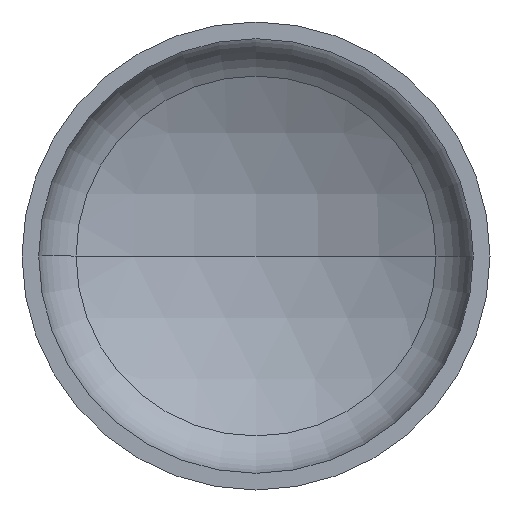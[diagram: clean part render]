
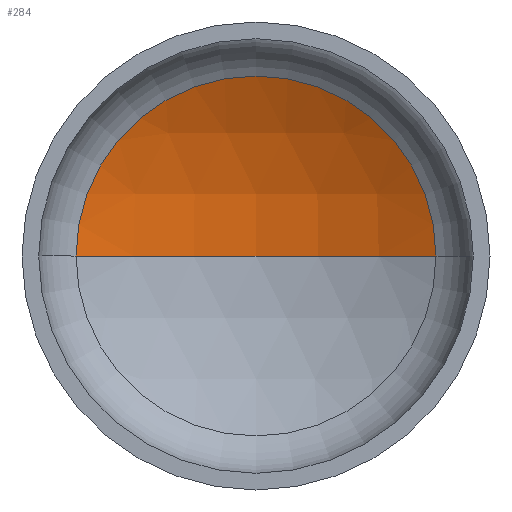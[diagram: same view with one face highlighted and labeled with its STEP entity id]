
A CAD part, front view. The second image highlights one B-rep face of the part: STEP entity #284.
In plain terms, the highlighted spherical face has radius 1120 mm.
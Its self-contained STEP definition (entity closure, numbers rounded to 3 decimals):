
#3 = AXIS2_PLACEMENT_3D ( 'NONE', #395, #195, #120 ) ;
#12 = EDGE_LOOP ( 'NONE', ( #149, #108, #100 ) ) ;
#20 = AXIS2_PLACEMENT_3D ( 'NONE', #129, #309, #266 ) ;
#21 = AXIS2_PLACEMENT_3D ( 'NONE', #36, #190, #22 ) ;
#22 = DIRECTION ( 'NONE',  ( -1., 0., 0. ) ) ;
#23 = AXIS2_PLACEMENT_3D ( 'NONE', #211, #337, #196 ) ;
#36 = CARTESIAN_POINT ( 'NONE',  ( 0., -643.599, 0. ) ) ;
#54 = CARTESIAN_POINT ( 'NONE',  ( -538.343, 338.535, 0. ) ) ;
#65 = VERTEX_POINT ( 'NONE', #217 ) ;
#76 = EDGE_CURVE ( 'NONE', #126, #242, #397, .T. ) ;
#77 = EDGE_CURVE ( 'NONE', #65, #126, #274, .T. ) ;
#78 = EDGE_CURVE ( 'NONE', #65, #242, #214, .T. ) ;
#100 = ORIENTED_EDGE ( 'NONE', *, *, #76, .T. ) ;
#108 = ORIENTED_EDGE ( 'NONE', *, *, #77, .T. ) ;
#120 = DIRECTION ( 'NONE',  ( -1., 0., 0. ) ) ;
#126 = VERTEX_POINT ( 'NONE', #231 ) ;
#129 = CARTESIAN_POINT ( 'NONE',  ( 0., -643.599, 0. ) ) ;
#149 = ORIENTED_EDGE ( 'NONE', *, *, #78, .F. ) ;
#190 = DIRECTION ( 'NONE',  ( 0., 0., -1. ) ) ;
#195 = DIRECTION ( 'NONE',  ( 0., 0., -1. ) ) ;
#196 = DIRECTION ( 'NONE',  ( 1., 0., 0. ) ) ;
#211 = CARTESIAN_POINT ( 'NONE',  ( 0., 338.535, 0. ) ) ;
#214 = CIRCLE ( 'NONE', #20, 1120. ) ;
#217 = CARTESIAN_POINT ( 'NONE',  ( 0., 476.401, 0. ) ) ;
#231 = CARTESIAN_POINT ( 'NONE',  ( 538.343, 338.535, 0. ) ) ;
#242 = VERTEX_POINT ( 'NONE', #54 ) ;
#266 = DIRECTION ( 'NONE',  ( 1., 0., 0. ) ) ;
#274 = CIRCLE ( 'NONE', #21, 1120. ) ;
#284 = ADVANCED_FACE ( 'NONE', ( #388 ), #323, .F. ) ;
#309 = DIRECTION ( 'NONE',  ( 0., 0., 1. ) ) ;
#323 = SPHERICAL_SURFACE ( 'NONE', #3, 1120. ) ;
#337 = DIRECTION ( 'NONE',  ( 0., -1., 0. ) ) ;
#388 = FACE_OUTER_BOUND ( 'NONE', #12, .T. ) ;
#395 = CARTESIAN_POINT ( 'NONE',  ( 0., -643.599, 0. ) ) ;
#397 = CIRCLE ( 'NONE', #23, 538.343 ) ;
